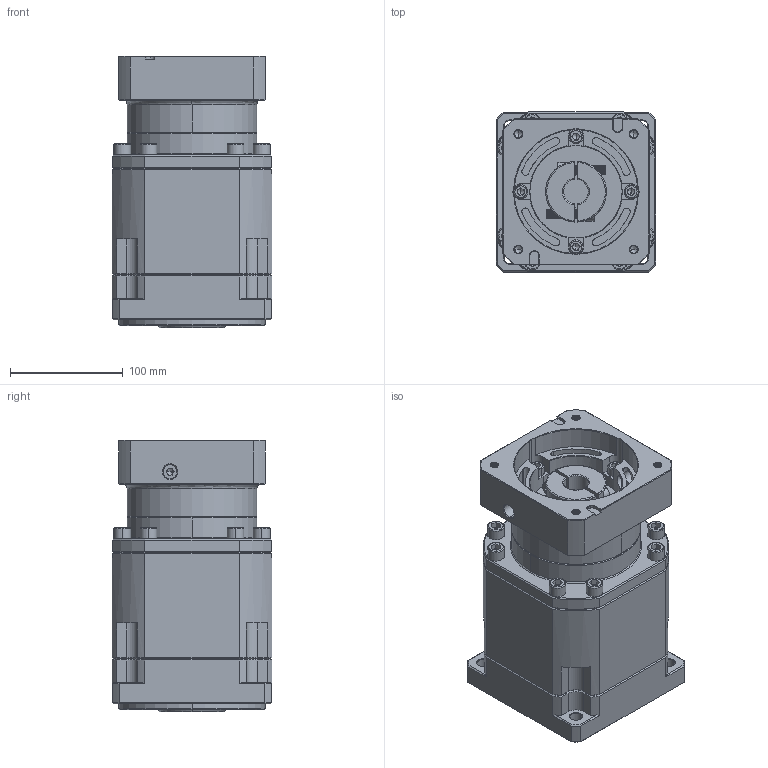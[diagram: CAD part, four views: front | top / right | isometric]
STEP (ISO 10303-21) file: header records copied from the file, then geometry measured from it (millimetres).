
FILE_DESCRIPTION (( 'STEP AP214' ), '1' );
FILE_NAME ('ZB142A-K35-L3-P2-22-110-145-M8.step', '2023-09-02T02:55:46', ( '' ), ( '' ), 'SwSTEP 2.0', 'SolidWorks 2016', '' );
FILE_SCHEMA (( 'AUTOMOTIVE_DESIGN' ));
Length unit declared in the file: millimetre
Products named in the file (1): ZB142A-K35-L3-P2-22-110-145-M8
Bounding box: 142 x 142 x 241.2 mm (x, y, z)
Volume: 3545506.8 mm3; surface area: 269703.2 mm2
Topology: 6 solids, 6 shells, 2539 faces, 6681 edges, 4261 vertices
Faces by surface type: plane 1224, cylinder 480, bspline 400, cone 381, torus 54
Entity records: 132501 total; most frequent: CARTESIAN_POINT 45005, ORIENTED_EDGE 13258, DIRECTION 10905, EDGE_CURVE 6629, VERTEX_POINT 4261, VECTOR 4227, LINE 4227, AXIS2_PLACEMENT_3D 3339
